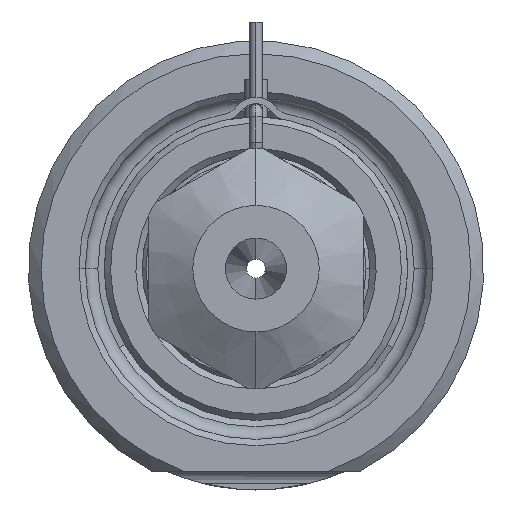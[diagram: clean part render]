
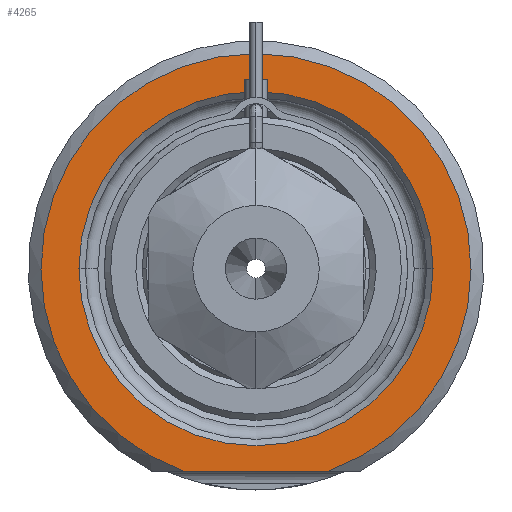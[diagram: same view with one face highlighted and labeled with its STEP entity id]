
A CAD part, front view. The second image highlights one B-rep face of the part: STEP entity #4265.
In plain terms, the highlighted planar face has unit normal (0, -1, 0).
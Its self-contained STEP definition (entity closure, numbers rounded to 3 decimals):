
#1339=CARTESIAN_POINT('',(0.,0.,0.));
#1340=DIRECTION('',(0.,-1.,0.));
#1341=DIRECTION('',(0.338,0.,-0.941));
#1342=AXIS2_PLACEMENT_3D('',#1339,#1340,#1341);
#1363=DIRECTION('',(1.,0.,0.));
#1364=VECTOR('',#1363,11.489);
#1365=CARTESIAN_POINT('',(-5.745,0.,-16.));
#1366=LINE('',#1365,#1364);
#1367=CARTESIAN_POINT('',(0.,0.,0.));
#1368=DIRECTION('',(0.,1.,0.));
#1369=DIRECTION('',(-1.,0.,0.));
#1370=AXIS2_PLACEMENT_3D('',#1367,#1368,#1369);
#1372=CARTESIAN_POINT('',(0.,0.,0.));
#1373=DIRECTION('',(0.,1.,0.));
#1374=DIRECTION('',(1.,0.,0.));
#1375=AXIS2_PLACEMENT_3D('',#1372,#1373,#1374);
#2264=CARTESIAN_POINT('',(-14.,0.,0.));
#2265=CARTESIAN_POINT('',(14.,0.,0.));
#2266=VERTEX_POINT('',#2264);
#2267=VERTEX_POINT('',#2265);
#2304=CARTESIAN_POINT('',(-5.745,0.,-16.));
#2305=CARTESIAN_POINT('',(5.745,0.,-16.));
#2306=VERTEX_POINT('',#2304);
#2307=VERTEX_POINT('',#2305);
#4250=CARTESIAN_POINT('',(0.,0.,0.));
#4251=DIRECTION('',(0.,-1.,0.));
#4252=DIRECTION('',(1.,0.,0.));
#4253=AXIS2_PLACEMENT_3D('',#4250,#4251,#4252);
#4254=PLANE('',#4253);
#4255=ORIENTED_EDGE('',*,*,#4182,.F.);
#4256=ORIENTED_EDGE('',*,*,#4242,.F.);
#4257=EDGE_LOOP('',(#4255,#4256));
#4258=FACE_OUTER_BOUND('',#4257,.F.);
#4260=ORIENTED_EDGE('',*,*,#4259,.F.);
#4262=ORIENTED_EDGE('',*,*,#4261,.F.);
#4263=EDGE_LOOP('',(#4260,#4262));
#4264=FACE_BOUND('',#4263,.F.);
#4265=ADVANCED_FACE('',(#4258,#4264),#4254,.T.);
#1343=CIRCLE('',#1342,17.);
#1371=CIRCLE('',#1370,14.);
#1376=CIRCLE('',#1375,14.);
#4182=EDGE_CURVE('',#2306,#2307,#1366,.T.);
#4242=EDGE_CURVE('',#2307,#2306,#1343,.T.);
#4259=EDGE_CURVE('',#2266,#2267,#1371,.T.);
#4261=EDGE_CURVE('',#2267,#2266,#1376,.T.);
